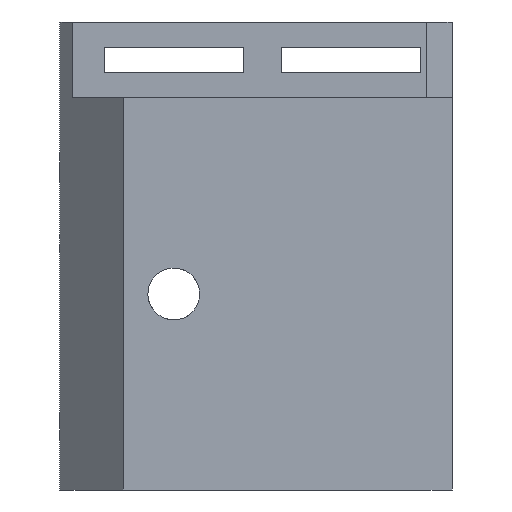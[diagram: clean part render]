
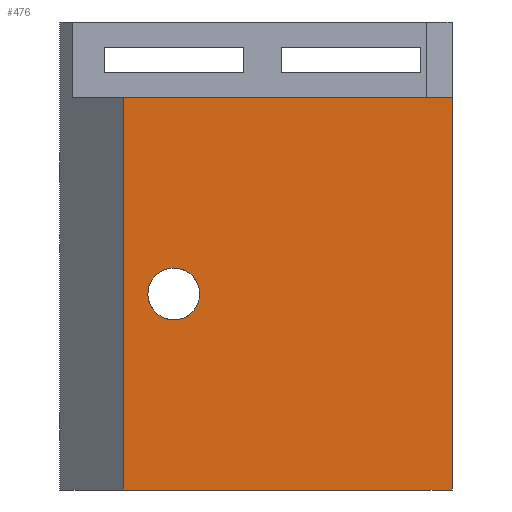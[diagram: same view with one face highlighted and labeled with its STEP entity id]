
A CAD part, front view. The second image highlights one B-rep face of the part: STEP entity #476.
In plain terms, the highlighted planar face has unit normal (0, -1, 0).
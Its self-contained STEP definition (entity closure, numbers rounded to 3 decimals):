
#438=AXIS2_PLACEMENT_3D('Plane Axis2P3D',#435,#436,#437) ;
#460=AXIS2_PLACEMENT_3D('Circle Axis2P3D',#458,#459,$) ;
#469=AXIS2_PLACEMENT_3D('Circle Axis2P3D',#467,#468,$) ;
#198=CARTESIAN_POINT('Vertex',(15.,-12.,12.5)) ;
#201=CARTESIAN_POINT('Line Origine',(15.,-12.,-3.)) ;
#205=CARTESIAN_POINT('Vertex',(15.,-12.,-18.5)) ;
#407=CARTESIAN_POINT('Line Origine',(2.,-12.,-18.5)) ;
#411=CARTESIAN_POINT('Vertex',(-11.,-12.,-18.5)) ;
#435=CARTESIAN_POINT('Axis2P3D Location',(15.,-12.,0.)) ;
#440=CARTESIAN_POINT('Line Origine',(-11.,-12.,-3.)) ;
#444=CARTESIAN_POINT('Vertex',(-11.,-12.,12.5)) ;
#447=CARTESIAN_POINT('Line Origine',(2.,-12.,12.5)) ;
#458=CARTESIAN_POINT('Axis2P3D Location',(-7.,-12.,-3.)) ;
#462=CARTESIAN_POINT('Vertex',(-6.017,-12.,-1.201)) ;
#464=CARTESIAN_POINT('Vertex',(-7.983,-12.,-4.799)) ;
#467=CARTESIAN_POINT('Axis2P3D Location',(-7.,-12.,-3.)) ;
#202=DIRECTION('Vector Direction',(0.,0.,1.)) ;
#408=DIRECTION('Vector Direction',(1.,0.,0.)) ;
#436=DIRECTION('Axis2P3D Direction',(0.,1.,-0.)) ;
#437=DIRECTION('Axis2P3D XDirection',(-1.,0.,0.)) ;
#441=DIRECTION('Vector Direction',(0.,0.,1.)) ;
#448=DIRECTION('Vector Direction',(1.,0.,0.)) ;
#459=DIRECTION('Axis2P3D Direction',(0.,1.,-0.)) ;
#468=DIRECTION('Axis2P3D Direction',(0.,1.,-0.)) ;
#203=VECTOR('Line Direction',#202,1.) ;
#409=VECTOR('Line Direction',#408,1.) ;
#442=VECTOR('Line Direction',#441,1.) ;
#449=VECTOR('Line Direction',#448,1.) ;
#453=ORIENTED_EDGE('',*,*,#446,.F.) ;
#454=ORIENTED_EDGE('',*,*,#413,.T.) ;
#455=ORIENTED_EDGE('',*,*,#207,.F.) ;
#456=ORIENTED_EDGE('',*,*,#451,.F.) ;
#473=ORIENTED_EDGE('',*,*,#466,.T.) ;
#474=ORIENTED_EDGE('',*,*,#471,.T.) ;
#475=FACE_BOUND('',#472,.T.) ;
#476=ADVANCED_FACE('\X2\96F64EF651E04F554F53\X0\',(#457,#475),#439,.F.) ;
#461=CIRCLE('generated circle',#460,2.05) ;
#470=CIRCLE('generated circle',#469,2.05) ;
#207=EDGE_CURVE('',#199,#206,#204,.F.) ;
#413=EDGE_CURVE('',#412,#206,#410,.T.) ;
#446=EDGE_CURVE('',#412,#445,#443,.T.) ;
#451=EDGE_CURVE('',#445,#199,#450,.T.) ;
#466=EDGE_CURVE('',#463,#465,#461,.T.) ;
#471=EDGE_CURVE('',#465,#463,#470,.T.) ;
#452=EDGE_LOOP('',(#453,#454,#455,#456)) ;
#472=EDGE_LOOP('',(#473,#474)) ;
#457=FACE_OUTER_BOUND('',#452,.T.) ;
#204=LINE('Line',#201,#203) ;
#410=LINE('Line',#407,#409) ;
#443=LINE('Line',#440,#442) ;
#450=LINE('Line',#447,#449) ;
#439=PLANE('',#438) ;
#199=VERTEX_POINT('',#198) ;
#206=VERTEX_POINT('',#205) ;
#412=VERTEX_POINT('',#411) ;
#445=VERTEX_POINT('',#444) ;
#463=VERTEX_POINT('',#462) ;
#465=VERTEX_POINT('',#464) ;
